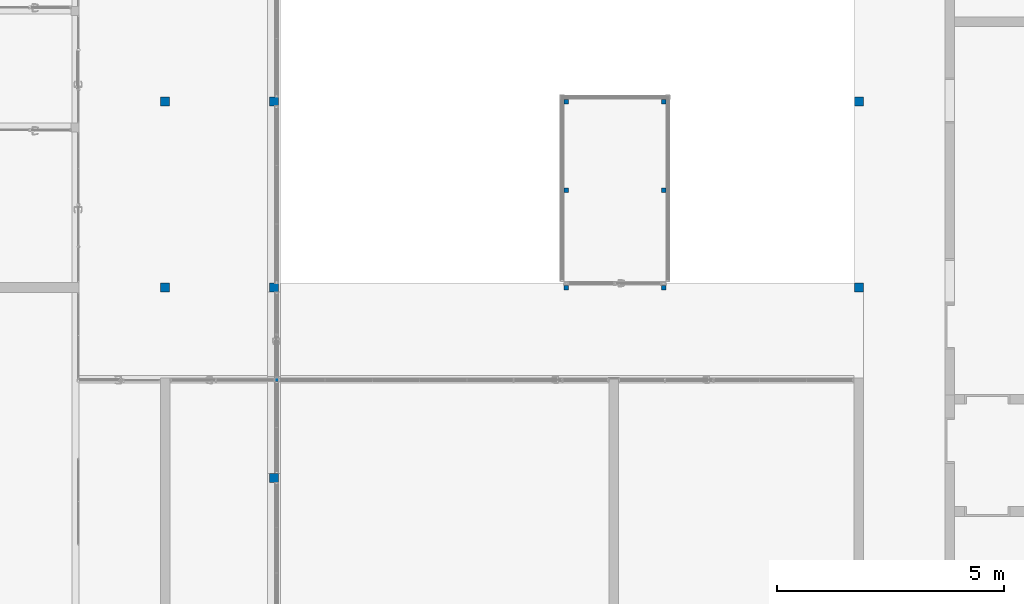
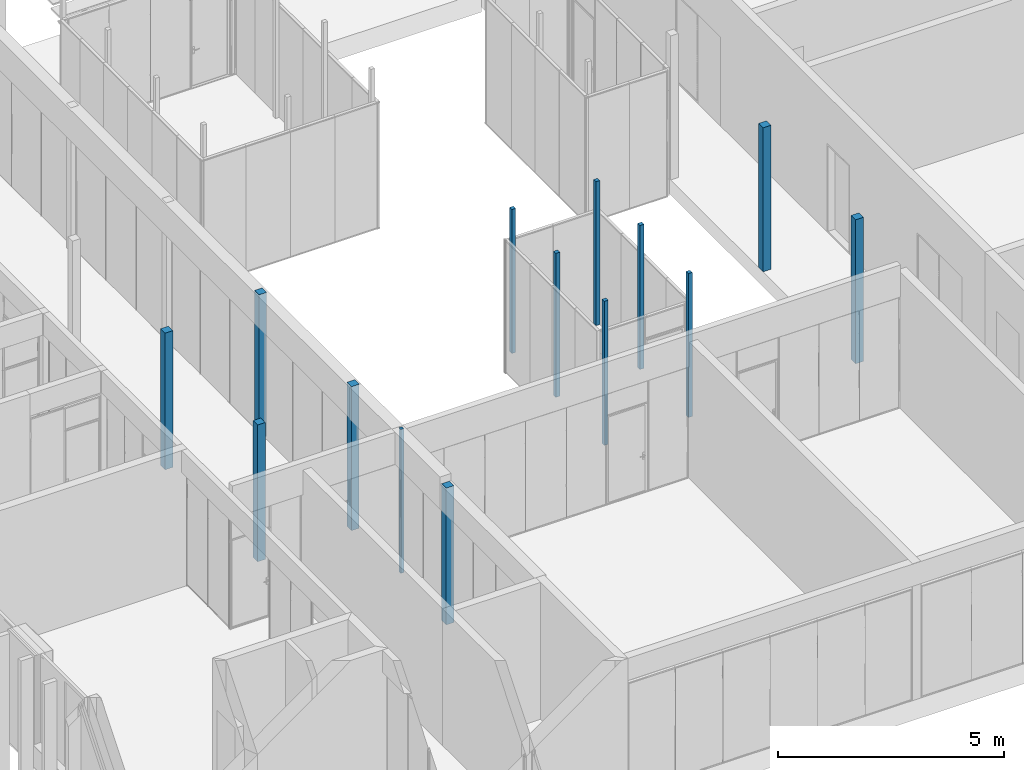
# One storey, part 1 of 387: 14 columns.
"""IFC2X3 building model written with IfcOpenShell, lengths in millimetres."""

from ifc_helpers import new_model, entity, si_unit, converted_unit, derived_unit, money_unit, direction, frame, origin_with_axes, origin_2d_with_axis, place, context, subcontext, project, spatial, rectangle, extrude, material, type_object, element, save


model = new_model("IFC2X3")

# Units and contexts
model_context = context("Model", 3, precision=0.01, world=origin_with_axes(), true_north=direction((0.0, 1.0)))
body_context = subcontext(model_context, "Body", "Model", "MODEL_VIEW")
ifc_project = project(units=[si_unit("LENGTHUNIT", "METRE", prefix="MILLI"), si_unit("AREAUNIT", "SQUARE_METRE"), si_unit("VOLUMEUNIT", "CUBIC_METRE"), converted_unit("PLANEANGLEUNIT", "DEGREE", entity("IfcPlaneAngleMeasure", 0.0174532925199), si_unit("PLANEANGLEUNIT", "RADIAN"), dimensions=[0, 0, 0, 0, 0, 0, 0]), si_unit("SOLIDANGLEUNIT", "STERADIAN"), money_unit("EUR"), converted_unit("TIMEUNIT", "Year", entity("IfcTimeMeasure", 31556926.0), si_unit("TIMEUNIT", "SECOND"), dimensions=[0, 0, 1, 0, 0, 0, 0]), si_unit("MASSUNIT", "GRAM", prefix="KILO"), si_unit("THERMODYNAMICTEMPERATUREUNIT", "DEGREE_CELSIUS"), si_unit("LUMINOUSINTENSITYUNIT", "LUMEN"), si_unit("ENERGYUNIT", "JOULE", prefix="MEGA"), derived_unit("THERMALCONDUCTANCEUNIT", [(si_unit("POWERUNIT", "WATT"), 1), (si_unit("LENGTHUNIT", "METRE"), -1), (si_unit("THERMODYNAMICTEMPERATUREUNIT", "KELVIN"), -1)]), derived_unit("SPECIFICHEATCAPACITYUNIT", [(si_unit("ENERGYUNIT", "JOULE"), 1), (si_unit("MASSUNIT", "GRAM", prefix="KILO"), -1), (si_unit("THERMODYNAMICTEMPERATUREUNIT", "KELVIN"), -1)]), derived_unit("MASSDENSITYUNIT", [(si_unit("MASSUNIT", "GRAM", prefix="KILO"), 1), (si_unit("VOLUMEUNIT", "CUBIC_METRE"), -1)])], contexts=[model_context])

# Site, building, storey
site_placement = place(None, origin_with_axes())
site = spatial("IfcSite", under=ifc_project, at=site_placement, Name="Puškini 31, Narva", CompositionType="ELEMENT")
building_placement = place(site_placement, origin_with_axes())
building = spatial("IfcBuilding", under=site, at=building_placement, Name="Narva Riigigümnaasium", CompositionType="ELEMENT")
storey_placement = place(building_placement, frame((0.0, 0.0, 2640.0), z_axis=(0.0, 0.0, 1.0), x_axis=(1.0, 0.0, 0.0)))
storey = spatial("IfcBuildingStorey", under=building, at=storey_placement, Name="2.korrus +2.64", CompositionType="ELEMENT", Elevation=2640.0)

# Columns
ifc_material_1 = material(Name="ET-06_Teras - Konstruktsioon")
column_type_1 = type_object("IfcColumnType", Name="ET-06_Teras - Konstruktsioon 100 x 100", PredefinedType="COLUMN")
for number, where, z_axis, x_axis, name in (
    (1, (41299.9999987, 179600.00006, 0.0), (0.0, 0.0, 1.0), (0.0, 1.0, 0.0), "Post"),
    (2, (39149.9999987, 179600.00006, 0.0), (0.0, 0.0, 1.0), (0.0, 1.0, 0.0), "Post"),
    (3, (39149.9999987, 175500.000115, 0.0), (0.0, 0.0, 1.0), (0.0, 1.0, 0.0), "Post"),
    (4, (41299.9999987, 175500.000115, 0.0), (0.0, 0.0, 1.0), (0.0, 1.0, 0.0), "Post"),
    (5, (39149.9999987, 177645.00006, 0.0), (0.0, 0.0, 1.0), (0.0, 1.0, 0.0), "Post"),
    (6, (41299.9999987, 177645.00006, 0.0), (0.0, 0.0, 1.0), (0.0, 1.0, 0.0), "Post"),
):
    element("IfcColumn", number, at=place(storey_placement, frame(where, z_axis=z_axis, x_axis=x_axis)), inside=storey, type_object=column_type_1, material=ifc_material_1, Name=name, ObjectType="COLUMN", context=body_context, shape_type="SweptSolid", body=[
        extrude(rectangle(XDim=100.0, YDim=100.0, at=origin_2d_with_axis()), origin_with_axes(), (0.0, 0.0, 1.0), 3895.0),
    ])
column_type_2 = type_object("IfcColumnType", Name="ET-06_Teras - Konstruktsioon 200 x 200", PredefinedType="COLUMN")
column_1_placement = place(storey_placement, frame((32700.0000014, 171300.000025, 0.0), z_axis=(0.0, 0.0, 1.0), x_axis=(0.0, 1.0, 0.0)))
element("IfcColumn", 7, at=column_1_placement, inside=storey, type_object=column_type_2, material=ifc_material_1, Name="Post", ObjectType="COLUMN", context=body_context, shape_type="SweptSolid", body=[
    extrude(rectangle(XDim=200.0, YDim=200.0, at=origin_2d_with_axis()), origin_with_axes(), (0.0, 0.0, 1.0), 3700.0),
])
for number, where, z_axis, x_axis, name in (
    (8, (45599.9999981, 179600.00006, 0.0), (0.0, 0.0, 1.0), (0.0, 1.0, 0.0), "Post"),
    (9, (32700.0000009, 179600.00006, 0.0), (0.0, 0.0, 1.0), (0.0, 1.0, 0.0), "Post"),
    (10, (45599.9999961, 175500.000115, 0.0), (0.0, 0.0, 1.0), (0.0, 1.0, 0.0), "Post"),
    (11, (32700.0000014, 175500.000115, 0.0), (0.0, 0.0, 1.0), (0.0, 1.0, 0.0), "Post"),
):
    element("IfcColumn", number, at=place(storey_placement, frame(where, z_axis=z_axis, x_axis=x_axis)), inside=storey, type_object=column_type_2, material=ifc_material_1, Name=name, ObjectType="COLUMN", context=body_context, shape_type="SweptSolid", body=[
        extrude(rectangle(XDim=200.0, YDim=200.0, at=origin_2d_with_axis()), origin_with_axes(), (0.0, 0.0, 1.0), 3895.0),
    ])
for number, where, z_axis, x_axis, name in (
    (12, (30299.9999983, 179600.00006, 0.0), (0.0, 0.0, 1.0), (0.0, 1.0, 0.0), "Post"),
    (13, (30299.9999983, 175500.000115, 0.0), (0.0, 0.0, 1.0), (0.0, 1.0, 0.0), "Post"),
):
    element("IfcColumn", number, at=place(storey_placement, frame(where, z_axis=z_axis, x_axis=x_axis)), inside=storey, type_object=column_type_2, material=ifc_material_1, Name=name, ObjectType="COLUMN", context=body_context, shape_type="SweptSolid", body=[
        extrude(rectangle(XDim=200.0, YDim=200.0, at=origin_2d_with_axis()), origin_with_axes(), (0.0, 0.0, 1.0), 3700.0),
    ])
ifc_material_2 = material(Name="Puit")
column_type_3 = type_object("IfcColumnType", Name="Puit 74 x 74", PredefinedType="COLUMN")
column_2_placement = place(storey_placement, frame((32762.9977849, 173462.997263, 0.0), z_axis=(0.0, 0.0, 1.0), x_axis=(1.0, 0.0, 0.0)))
element("IfcColumn", 14, at=column_2_placement, inside=storey, type_object=column_type_3, material=ifc_material_2, Name="Post", ObjectType="COLUMN", context=body_context, shape_type="SweptSolid", body=[
    extrude(rectangle(XDim=74.0, YDim=74.0, at=origin_2d_with_axis()), origin_with_axes(), (0.0, 0.0, 1.0), 3895.0),
])

save(model, "model.ifc")
